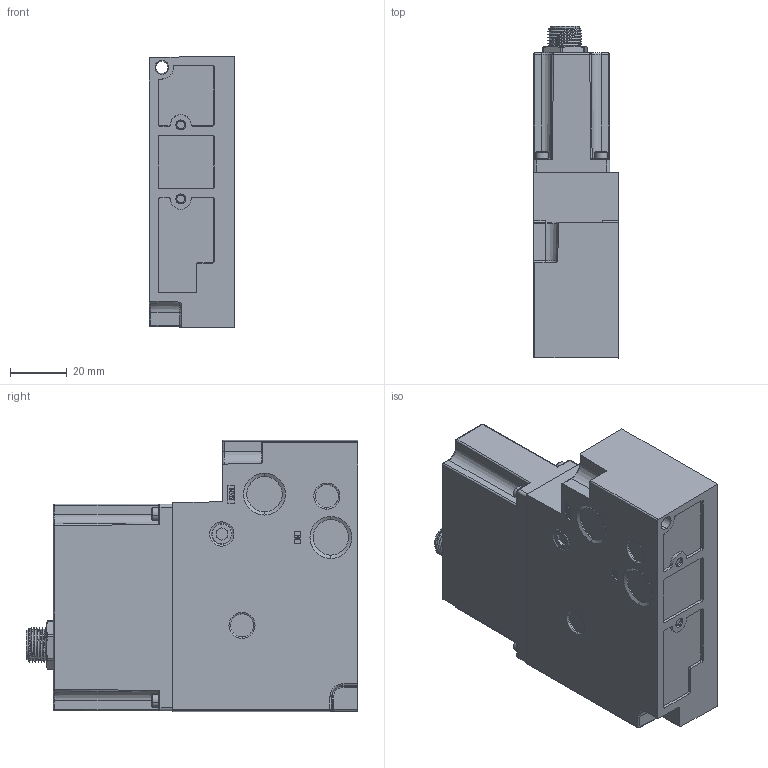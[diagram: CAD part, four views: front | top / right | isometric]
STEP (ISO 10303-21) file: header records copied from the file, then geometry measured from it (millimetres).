
FILE_DESCRIPTION (( 'STEP AP214' ), '1' );
FILE_NAME ('CLASS B MIO Link 46.STEP', '2024-08-23T19:20:56', ( '' ), ( '' ), 'SwSTEP 2.0', 'SolidWorks 2020', '' );
FILE_SCHEMA (( 'AUTOMOTIVE_DESIGN' ));
Length unit declared in the file: millimetre
Products named in the file (4): CLASS B MIO Link 46; 89216(SC); 32813(SC); M-M0008-B(SC)_CLASS B
Assembly tree (3 placements, depth 2):
  CLASS B MIO Link 46
    32813(SC)
    89216(SC)
    M-M0008-B(SC)_CLASS B
Bounding box: 29.9 x 116.52 x 95.48 mm (x, y, z)
Volume: 241313.1 mm3; surface area: 40441.2 mm2
Topology: 19 solids, 20 shells, 1478 faces, 3689 edges, 2266 vertices
Faces by surface type: plane 496, cylinder 479, cone 235, bspline 144, torus 79, sphere 45
Entity records: 141958 total; most frequent: CARTESIAN_POINT 91977, ORIENTED_EDGE 7216, DIRECTION 6768, EDGE_CURVE 3608, AXIS2_PLACEMENT_3D 2492, VERTEX_POINT 2266, LINE 1784, VECTOR 1784
